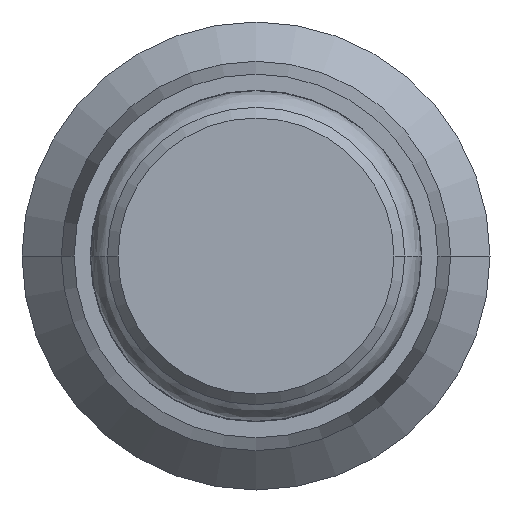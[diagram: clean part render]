
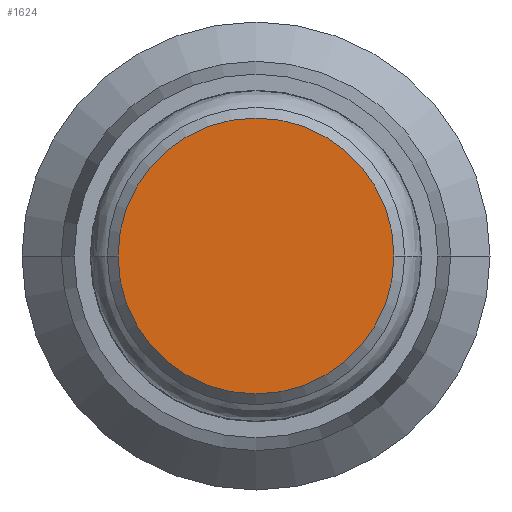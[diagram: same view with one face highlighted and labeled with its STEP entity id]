
A CAD part, front view. The second image highlights one B-rep face of the part: STEP entity #1624.
In plain terms, the highlighted planar face has unit normal (0, -1, 0).
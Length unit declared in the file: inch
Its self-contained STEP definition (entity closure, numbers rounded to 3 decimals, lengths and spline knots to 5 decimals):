
#609=CARTESIAN_POINT('',(0.,-0.95,0.));
#610=DIRECTION('',(0.,1.,0.));
#611=DIRECTION('',(-1.,0.,0.));
#612=AXIS2_PLACEMENT_3D('',#609,#610,#611);
#619=CARTESIAN_POINT('',(0.,-0.95,0.));
#620=DIRECTION('',(0.,1.,0.));
#621=DIRECTION('',(1.,0.,0.));
#622=AXIS2_PLACEMENT_3D('',#619,#620,#621);
#721=CARTESIAN_POINT('',(-0.129,-0.95,0.));
#722=CARTESIAN_POINT('',(0.129,-0.95,0.));
#723=VERTEX_POINT('',#721);
#724=VERTEX_POINT('',#722);
#1614=CARTESIAN_POINT('',(0.,-0.95,0.));
#1615=DIRECTION('',(0.,1.,0.));
#1616=DIRECTION('',(1.,0.,0.));
#1617=AXIS2_PLACEMENT_3D('',#1614,#1615,#1616);
#1618=PLANE('',#1617);
#1620=ORIENTED_EDGE('',*,*,#1619,.T.);
#1621=ORIENTED_EDGE('',*,*,#1604,.T.);
#1622=EDGE_LOOP('',(#1620,#1621));
#1623=FACE_OUTER_BOUND('',#1622,.F.);
#1624=ADVANCED_FACE('',(#1623),#1618,.F.);
#613=CIRCLE('',#612,0.129);
#623=CIRCLE('',#622,0.129);
#1604=EDGE_CURVE('',#723,#724,#613,.T.);
#1619=EDGE_CURVE('',#724,#723,#623,.T.);
